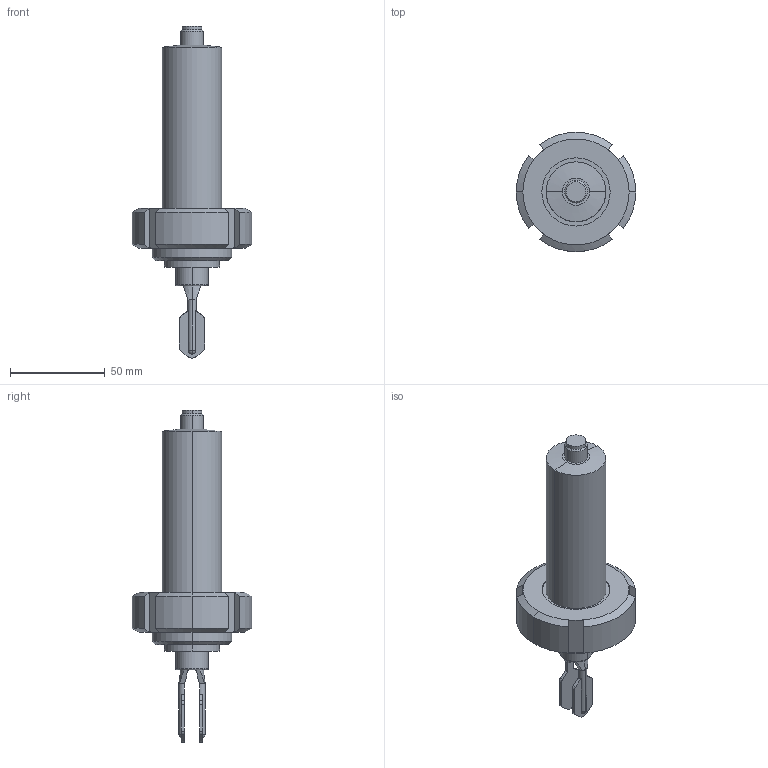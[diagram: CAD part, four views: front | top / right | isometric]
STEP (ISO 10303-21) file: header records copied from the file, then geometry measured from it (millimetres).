
FILE_DESCRIPTION(('starvars output'),'1');
FILE_NAME('cv20241203094428000037008.stp','09:44:28 2024/12/03',('Thomas Industrial Network Germany GmbH'),(' '),'Spatial InterOp 3D',' ',' ');
FILE_SCHEMA(('AP242_MANAGED_MODEL_BASED_3D_ENGINEERING_MIM_LF {1 0 10303 442 2 1 4}'));
Length unit declared in the file: millimetre
Products named in the file (1): 1
Bounding box: 63 x 63 x 175.1 mm (x, y, z)
Volume: 136890 mm3; surface area: 27631.4 mm2
Topology: 1 solids, 1 shells, 129 faces, 323 edges, 205 vertices
Faces by surface type: plane 55, cylinder 46, cone 22, sphere 4, torus 2
Entity records: 4946 total; most frequent: CARTESIAN_POINT 794, DIRECTION 680, ORIENTED_EDGE 646, EDGE_CURVE 323, AXIS2_PLACEMENT_3D 267, VERTEX_POINT 205, LINE 146, VECTOR 146
